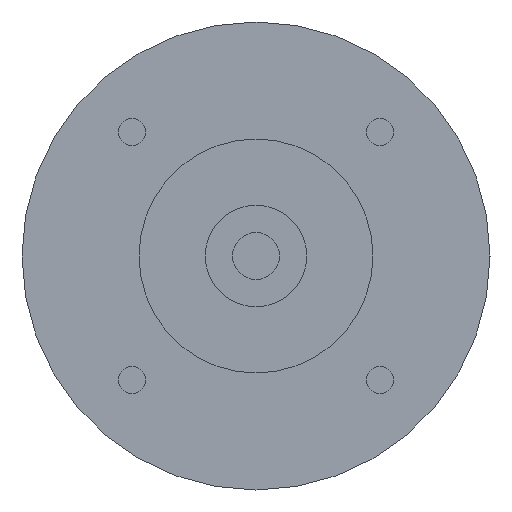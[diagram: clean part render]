
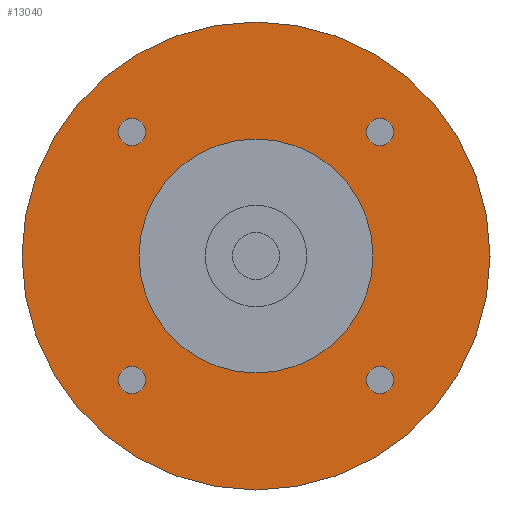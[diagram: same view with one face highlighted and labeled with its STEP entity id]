
A CAD part, left-side view. The second image highlights one B-rep face of the part: STEP entity #13040.
In plain terms, the highlighted planar face has unit normal (-1, 0, 0) as drawn and (0, 0, -1) by its records, which use the part's own axes.
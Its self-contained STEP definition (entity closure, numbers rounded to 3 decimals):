
#9080=CARTESIAN_POINT('',(-30.,0.,-39.));
#9090=VERTEX_POINT('',#9080);
#9180=CARTESIAN_POINT('',(30.,0.,-39.));
#9190=VERTEX_POINT('',#9180);
#9220=CARTESIAN_POINT('',(0.,0.,-39.
));
#9230=DIRECTION('',(0.,0.,1.));
#9240=DIRECTION('',(1.,0.,0.));
#9250=AXIS2_PLACEMENT_3D('',#9220,#9230,#9240);
#9260=CIRCLE('',#9250,30.);
#9270=CARTESIAN_POINT('',(0.,-30.,-39.));
#9280=VERTEX_POINT('',#9270);
#9290=EDGE_CURVE('',#9280,#9190,#9260,.T.);
#9310=EDGE_CURVE('',#9090,#9280,#9260,.T.);
#12010=CARTESIAN_POINT('',(14.16,-15.91,-39.));
#12020=VERTEX_POINT('',#12010);
#12050=CARTESIAN_POINT('',(15.91,-15.91,-39.));
#12060=DIRECTION('',(0.,0.,-1.));
#12070=DIRECTION('',(1.,0.,0.));
#12080=AXIS2_PLACEMENT_3D('',#12050,#12060,#12070);
#12090=CIRCLE('',#12080,1.75);
#12100=CARTESIAN_POINT('',(17.66,-15.91,-39.));
#12110=VERTEX_POINT('',#12100);
#12120=EDGE_CURVE('',#12110,#12020,#12090,.T.);
#12240=CARTESIAN_POINT('',(0.,0.,
-39.));
#12250=DIRECTION('',(0.,0.,-1.));
#12260=DIRECTION('',(1.,0.,0.));
#12270=AXIS2_PLACEMENT_3D('',#12240,#12250,#12260);
#12280=PLANE('',#12270);
#12290=CARTESIAN_POINT('',(15.91,15.91,-39.));
#12300=DIRECTION('',(0.,0.,-1.));
#12310=DIRECTION('',(0.,1.,0.));
#12320=AXIS2_PLACEMENT_3D('',#12290,#12300,#12310);
#12330=CIRCLE('',#12320,1.75);
#12340=CARTESIAN_POINT('',(15.91,17.66,-39.));
#12350=VERTEX_POINT('',#12340);
#12360=CARTESIAN_POINT('',(15.91,14.16,-39.));
#12370=VERTEX_POINT('',#12360);
#12380=EDGE_CURVE('',#12350,#12370,#12330,.T.);
#12390=ORIENTED_EDGE('',*,*,#12380,.F.);
#12400=EDGE_CURVE('',#12370,#12350,#12330,.T.);
#12410=ORIENTED_EDGE('',*,*,#12400,.F.);
#12420=EDGE_LOOP('',(#12410,#12390));
#12430=FACE_BOUND('',#12420,.T.);
#12440=CARTESIAN_POINT('',(-15.91,15.91,-39.));
#12450=DIRECTION('',(0.,0.,-1.));
#12460=DIRECTION('',(-1.,0.,0.));
#12470=AXIS2_PLACEMENT_3D('',#12440,#12450,#12460);
#12480=CIRCLE('',#12470,1.75);
#12490=CARTESIAN_POINT('',(-17.66,15.91,-39.));
#12500=VERTEX_POINT('',#12490);
#12510=CARTESIAN_POINT('',(-14.16,15.91,-39.));
#12520=VERTEX_POINT('',#12510);
#12530=EDGE_CURVE('',#12500,#12520,#12480,.T.);
#12540=ORIENTED_EDGE('',*,*,#12530,.F.);
#12550=EDGE_CURVE('',#12520,#12500,#12480,.T.);
#12560=ORIENTED_EDGE('',*,*,#12550,.F.);
#12570=EDGE_LOOP('',(#12560,#12540));
#12580=FACE_BOUND('',#12570,.T.);
#12590=CARTESIAN_POINT('',(-15.91,-15.91,-39.));
#12600=DIRECTION('',(0.,0.,-1.));
#12610=DIRECTION('',(0.,-1.,0.));
#12620=AXIS2_PLACEMENT_3D('',#12590,#12600,#12610);
#12630=CIRCLE('',#12620,1.75);
#12640=CARTESIAN_POINT('',(-15.91,-17.66,-39.));
#12650=VERTEX_POINT('',#12640);
#12660=CARTESIAN_POINT('',(-15.91,-14.16,-39.));
#12670=VERTEX_POINT('',#12660);
#12680=EDGE_CURVE('',#12650,#12670,#12630,.T.);
#12690=ORIENTED_EDGE('',*,*,#12680,.F.);
#12700=EDGE_CURVE('',#12670,#12650,#12630,.T.);
#12710=ORIENTED_EDGE('',*,*,#12700,.F.);
#12720=EDGE_LOOP('',(#12710,#12690));
#12730=FACE_BOUND('',#12720,.T.);
#12740=CARTESIAN_POINT('',(0.,0.,
-39.));
#12750=DIRECTION('',(0.,0.,1.));
#12760=DIRECTION('',(0.,1.,0.));
#12770=AXIS2_PLACEMENT_3D('',#12740,#12750,#12760);
#12780=CIRCLE('',#12770,15.);
#12790=CARTESIAN_POINT('',(-15.,0.,-39.));
#12800=VERTEX_POINT('',#12790);
#12810=CARTESIAN_POINT('',(15.,0.,-39.));
#12820=VERTEX_POINT('',#12810);
#12830=EDGE_CURVE('',#12800,#12820,#12780,.T.);
#12840=ORIENTED_EDGE('',*,*,#12830,.T.);
#12850=CARTESIAN_POINT('',(0.,15.,-39.));
#12860=VERTEX_POINT('',#12850);
#12870=EDGE_CURVE('',#12860,#12800,#12780,.T.);
#12880=ORIENTED_EDGE('',*,*,#12870,.T.);
#12890=EDGE_CURVE('',#12820,#12860,#12780,.T.);
#12900=ORIENTED_EDGE('',*,*,#12890,.T.);
#12910=EDGE_LOOP('',(#12900,#12880,#12840));
#12920=FACE_BOUND('',#12910,.T.);
#12930=ORIENTED_EDGE('',*,*,#12120,.F.);
#12940=EDGE_CURVE('',#12020,#12110,#12090,.T.);
#12950=ORIENTED_EDGE('',*,*,#12940,.F.);
#12960=EDGE_LOOP('',(#12950,#12930));
#12970=FACE_BOUND('',#12960,.T.);
#12980=ORIENTED_EDGE('',*,*,#9290,.F.);
#12990=EDGE_CURVE('',#9190,#9090,#9260,.T.);
#13000=ORIENTED_EDGE('',*,*,#12990,.F.);
#13010=ORIENTED_EDGE('',*,*,#9310,.F.);
#13020=EDGE_LOOP('',(#13010,#13000,#12980));
#13030=FACE_OUTER_BOUND('',#13020,.T.);
#13040=ADVANCED_FACE('',(#12430,#12580,#12730,#12920,#12970,#13030),
#12280,.T.);
